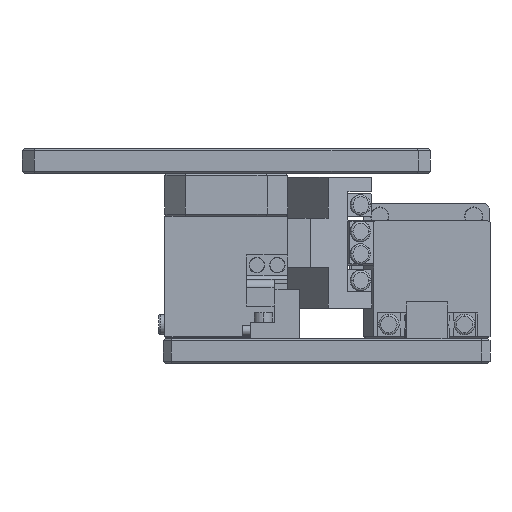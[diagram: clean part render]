
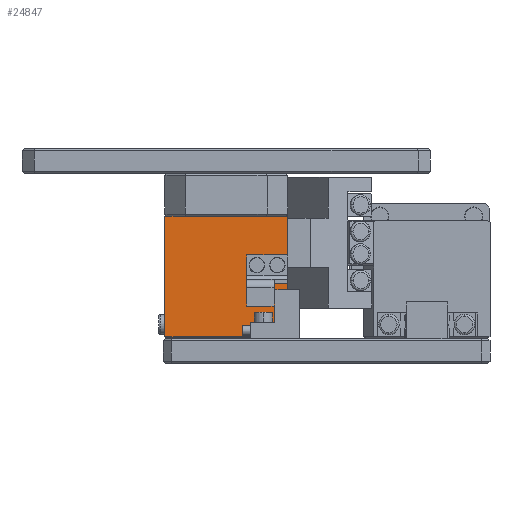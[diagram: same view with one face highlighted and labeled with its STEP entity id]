
A CAD part, front view. The second image highlights one B-rep face of the part: STEP entity #24847.
In plain terms, the highlighted planar face has unit normal (0, -1, 0).
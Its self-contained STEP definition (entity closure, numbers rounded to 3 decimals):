
#515 = CARTESIAN_POINT ( 'NONE',  ( -31.346, -62.378, 103.5 ) ) ;
#614 = CARTESIAN_POINT ( 'NONE',  ( -11.346, -62.378, 118.5 ) ) ;
#1801 = ORIENTED_EDGE ( 'NONE', *, *, #32666, .F. ) ;
#2078 = ORIENTED_EDGE ( 'NONE', *, *, #17840, .T. ) ;
#4832 = LINE ( 'NONE', #515, #21574 ) ;
#5273 = CARTESIAN_POINT ( 'NONE',  ( -11.346, -62.378, 117.5 ) ) ;
#5653 = VECTOR ( 'NONE', #9909, 1000. ) ;
#5734 = ORIENTED_EDGE ( 'NONE', *, *, #30797, .T. ) ;
#6217 = EDGE_CURVE ( 'NONE', #27985, #28175, #17013, .T. ) ;
#6343 = VECTOR ( 'NONE', #40201, 1000. ) ;
#6828 = CARTESIAN_POINT ( 'NONE',  ( -1.346, -62.378, 123.5 ) ) ;
#7168 = CARTESIAN_POINT ( 'NONE',  ( -1.346, -62.378, 133. ) ) ;
#7234 = VERTEX_POINT ( 'NONE', #11895 ) ;
#7403 = VERTEX_POINT ( 'NONE', #27008 ) ;
#7919 = ORIENTED_EDGE ( 'NONE', *, *, #6217, .F. ) ;
#9067 = LINE ( 'NONE', #29452, #26730 ) ;
#9459 = CARTESIAN_POINT ( 'NONE',  ( -1.346, -62.378, 118.5 ) ) ;
#9824 = CARTESIAN_POINT ( 'NONE',  ( -1.346, -62.378, 103.5 ) ) ;
#9909 = DIRECTION ( 'NONE',  ( -1., 0., 0. ) ) ;
#10109 = EDGE_CURVE ( 'NONE', #39504, #7234, #36822, .T. ) ;
#10716 = CARTESIAN_POINT ( 'NONE',  ( -1.346, -62.378, 103.5 ) ) ;
#10802 = DIRECTION ( 'NONE',  ( -1., 0., 0. ) ) ;
#10843 = CARTESIAN_POINT ( 'NONE',  ( -1.346, -62.378, 118.5 ) ) ;
#11013 = DIRECTION ( 'NONE',  ( 0., 0., -1. ) ) ;
#11472 = VECTOR ( 'NONE', #36599, 1000. ) ;
#11895 = CARTESIAN_POINT ( 'NONE',  ( -31.346, -62.378, 133. ) ) ;
#12895 = CARTESIAN_POINT ( 'NONE',  ( -1.346, -62.378, 103.5 ) ) ;
#13369 = EDGE_CURVE ( 'NONE', #39504, #7403, #23450, .T. ) ;
#13812 = PLANE ( 'NONE',  #25489 ) ;
#14680 = CARTESIAN_POINT ( 'NONE',  ( -11.346, -62.378, 123.5 ) ) ;
#15059 = DIRECTION ( 'NONE',  ( 0., 0., -1. ) ) ;
#17009 = DIRECTION ( 'NONE',  ( 0., 1., 0. ) ) ;
#17013 = LINE ( 'NONE', #12895, #5653 ) ;
#17106 = VECTOR ( 'NONE', #15059, 1000. ) ;
#17840 = EDGE_CURVE ( 'NONE', #33624, #35265, #44132, .T. ) ;
#19841 = CARTESIAN_POINT ( 'NONE',  ( -1.346, -62.378, 142.5 ) ) ;
#20127 = CARTESIAN_POINT ( 'NONE',  ( -1.346, -62.378, 133. ) ) ;
#21251 = LINE ( 'NONE', #10716, #17106 ) ;
#21574 = VECTOR ( 'NONE', #11013, 1000. ) ;
#22079 = ORIENTED_EDGE ( 'NONE', *, *, #13369, .F. ) ;
#22685 = DIRECTION ( 'NONE',  ( -1., 0., 0. ) ) ;
#23422 = DIRECTION ( 'NONE',  ( -1., 0., 0. ) ) ;
#23450 = LINE ( 'NONE', #37364, #28464 ) ;
#23532 = VECTOR ( 'NONE', #23422, 1000. ) ;
#24847 = ADVANCED_FACE ( 'NONE', ( #44887 ), #13812, .F. ) ;
#25489 = AXIS2_PLACEMENT_3D ( 'NONE', #35496, #17009, #10802 ) ;
#25892 = ORIENTED_EDGE ( 'NONE', *, *, #28070, .F. ) ;
#26445 = ORIENTED_EDGE ( 'NONE', *, *, #33450, .F. ) ;
#26730 = VECTOR ( 'NONE', #36963, 1000. ) ;
#26855 = LINE ( 'NONE', #9459, #23532 ) ;
#27008 = CARTESIAN_POINT ( 'NONE',  ( -1.346, -62.378, 132.5 ) ) ;
#27985 = VERTEX_POINT ( 'NONE', #9824 ) ;
#28070 = EDGE_CURVE ( 'NONE', #33969, #27985, #21251, .T. ) ;
#28175 = VERTEX_POINT ( 'NONE', #43172 ) ;
#28464 = VECTOR ( 'NONE', #33727, 1000. ) ;
#29308 = EDGE_LOOP ( 'NONE', ( #2078, #1801, #26445, #22079, #39537, #5734, #7919, #25892, #42898 ) ) ;
#29452 = CARTESIAN_POINT ( 'NONE',  ( -1.346, -62.378, 123.5 ) ) ;
#30797 = EDGE_CURVE ( 'NONE', #7234, #28175, #4832, .T. ) ;
#32666 = EDGE_CURVE ( 'NONE', #39180, #35265, #9067, .T. ) ;
#33450 = EDGE_CURVE ( 'NONE', #7403, #39180, #44534, .T. ) ;
#33624 = VERTEX_POINT ( 'NONE', #614 ) ;
#33727 = DIRECTION ( 'NONE',  ( 0., 0., -1. ) ) ;
#33969 = VERTEX_POINT ( 'NONE', #10843 ) ;
#35084 = EDGE_CURVE ( 'NONE', #33969, #33624, #26855, .T. ) ;
#35265 = VERTEX_POINT ( 'NONE', #14680 ) ;
#35496 = CARTESIAN_POINT ( 'NONE',  ( -1.346, -62.378, 103.5 ) ) ;
#36599 = DIRECTION ( 'NONE',  ( 0., 0., 1. ) ) ;
#36822 = LINE ( 'NONE', #20127, #43371 ) ;
#36963 = DIRECTION ( 'NONE',  ( -1., 0., 0. ) ) ;
#37364 = CARTESIAN_POINT ( 'NONE',  ( -1.346, -62.378, 103.5 ) ) ;
#39180 = VERTEX_POINT ( 'NONE', #6828 ) ;
#39504 = VERTEX_POINT ( 'NONE', #7168 ) ;
#39537 = ORIENTED_EDGE ( 'NONE', *, *, #10109, .T. ) ;
#40201 = DIRECTION ( 'NONE',  ( 0., 0., -1. ) ) ;
#42898 = ORIENTED_EDGE ( 'NONE', *, *, #35084, .T. ) ;
#43172 = CARTESIAN_POINT ( 'NONE',  ( -31.346, -62.378, 103.5 ) ) ;
#43371 = VECTOR ( 'NONE', #22685, 1000. ) ;
#44132 = LINE ( 'NONE', #5273, #11472 ) ;
#44534 = LINE ( 'NONE', #19841, #6343 ) ;
#44887 = FACE_OUTER_BOUND ( 'NONE', #29308, .T. ) ;
